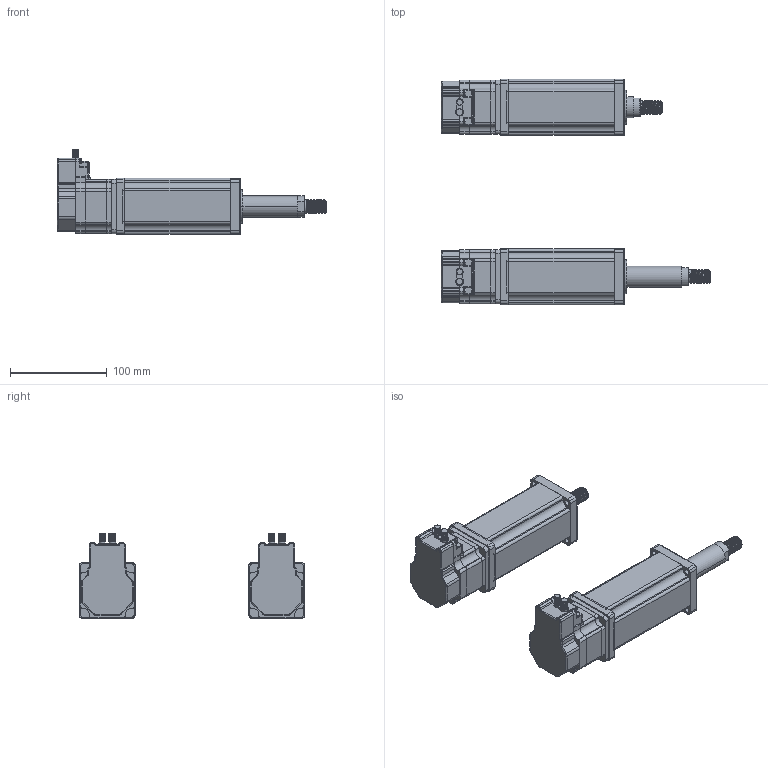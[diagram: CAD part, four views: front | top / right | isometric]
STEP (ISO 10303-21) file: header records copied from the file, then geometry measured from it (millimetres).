
FILE_DESCRIPTION(('STEP AP214'),'1');
FILE_NAME('\Tsurumi-main\3d_dad2\Servo_Motor\tmp0.STEP',' ',(' '),(' '),'XStep 1.0',' ',' ');
FILE_SCHEMA(('automotive_design'));
Length unit declared in the file: millimetre
Bounding box: 278.42 x 233.23 x 88.11 mm (x, y, z)
Volume: 1202399.8 mm3; surface area: 213670.4 mm2
Topology: 48 solids, 48 shells, 1828 faces, 5014 edges, 3286 vertices
Faces by surface type: plane 1250, cylinder 470, bspline 60, torus 36, sphere 8, cone 4
Entity records: 112259 total; most frequent: CARTESIAN_POINT 49708, ORIENTED_EDGE 9996, DIRECTION 9460, EDGE_CURVE 4998, LINE 3900, VECTOR 3900, VERTEX_POINT 3286, AXIS2_PLACEMENT_3D 2780
